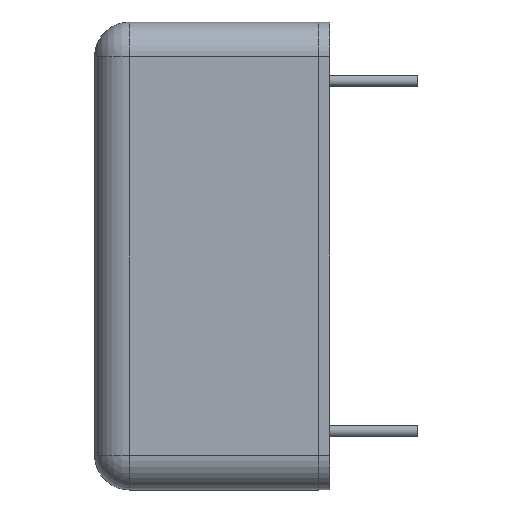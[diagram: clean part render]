
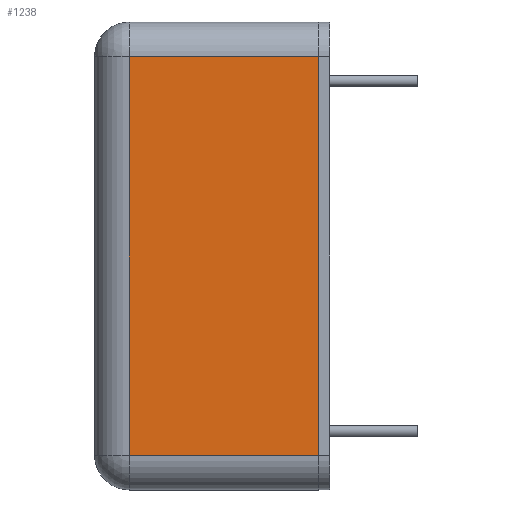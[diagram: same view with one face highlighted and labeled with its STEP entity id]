
A CAD part, left-side view. The second image highlights one B-rep face of the part: STEP entity #1238.
In plain terms, the highlighted planar face has unit normal (-1, 0, 0) as drawn and (0, 0, 1) by its records, which use the part's own axes.
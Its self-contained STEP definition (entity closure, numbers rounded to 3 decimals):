
#1238 = ADVANCED_FACE ( 'NONE', ( #7782 ), #7781, .F. ) ;
#1239 = EDGE_LOOP ( 'NONE', ( #1240, #1324, #1327, #1285 ) ) ;
#1240 = ORIENTED_EDGE ( 'NONE', *, *, #1241, .T. ) ;
#1241 = EDGE_CURVE ( 'NONE', #1242, #1243, #7779, .T. ) ;
#1242 = VERTEX_POINT ( 'NONE', #7772 ) ;
#1243 = VERTEX_POINT ( 'NONE', #7771 ) ;
#1283 = EDGE_CURVE ( 'NONE', #1326, #1284, #7840, .T. ) ;
#1284 = VERTEX_POINT ( 'NONE', #7836 ) ;
#1285 = ORIENTED_EDGE ( 'NONE', *, *, #1286, .T. ) ;
#1286 = EDGE_CURVE ( 'NONE', #1284, #1242, #7835, .T. ) ;
#1324 = ORIENTED_EDGE ( 'NONE', *, *, #1325, .T. ) ;
#1325 = EDGE_CURVE ( 'NONE', #1243, #1326, #7940, .T. ) ;
#1326 = VERTEX_POINT ( 'NONE', #7933 ) ;
#1327 = ORIENTED_EDGE ( 'NONE', *, *, #1283, .T. ) ;
#7771 = CARTESIAN_POINT ( 'NONE',  ( -8.65, 8.2, 15.9 ) ) ;
#7772 = CARTESIAN_POINT ( 'NONE',  ( 8.65, 8.2, 15.9 ) ) ;
#7773 = DIRECTION ( 'NONE',  ( -1., 0., 0. ) ) ;
#7774 = VECTOR ( 'NONE', #7773, 1000. ) ;
#7775 = CARTESIAN_POINT ( 'NONE',  ( -10.15, 8.2, 15.9 ) ) ;
#7776 = DIRECTION ( 'NONE',  ( -1., 0., 0. ) ) ;
#7777 = DIRECTION ( 'NONE',  ( 0., 0., -1. ) ) ;
#7778 = AXIS2_PLACEMENT_3D ( 'NONE', #7780, #7777, #7776 ) ;
#7779 = LINE ( 'NONE', #7775, #7774 ) ;
#7780 = CARTESIAN_POINT ( 'NONE',  ( -10.15, 9.7, 15.9 ) ) ;
#7781 = PLANE ( 'NONE',  #7778 ) ;
#7782 = FACE_OUTER_BOUND ( 'NONE', #1239, .T. ) ;
#7832 = DIRECTION ( 'NONE',  ( 0., 1., 0. ) ) ;
#7833 = VECTOR ( 'NONE', #7832, 1000. ) ;
#7834 = CARTESIAN_POINT ( 'NONE',  ( 8.65, 9.7, 15.9 ) ) ;
#7835 = LINE ( 'NONE', #7834, #7833 ) ;
#7836 = CARTESIAN_POINT ( 'NONE',  ( 8.65, 0., 15.9 ) ) ;
#7837 = DIRECTION ( 'NONE',  ( 1., 0., 0. ) ) ;
#7838 = VECTOR ( 'NONE', #7837, 1000. ) ;
#7839 = CARTESIAN_POINT ( 'NONE',  ( -10.15, 0., 15.9 ) ) ;
#7840 = LINE ( 'NONE', #7839, #7838 ) ;
#7933 = CARTESIAN_POINT ( 'NONE',  ( -8.65, 0., 15.9 ) ) ;
#7934 = DIRECTION ( 'NONE',  ( 0., -1., 0. ) ) ;
#7935 = VECTOR ( 'NONE', #7934, 1000. ) ;
#7936 = CARTESIAN_POINT ( 'NONE',  ( -8.65, 9.7, 15.9 ) ) ;
#7940 = LINE ( 'NONE', #7936, #7935 ) ;
